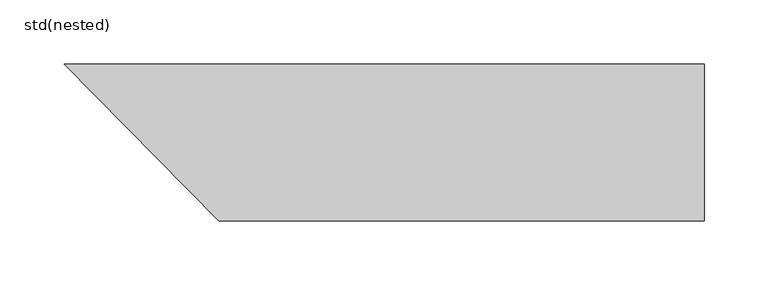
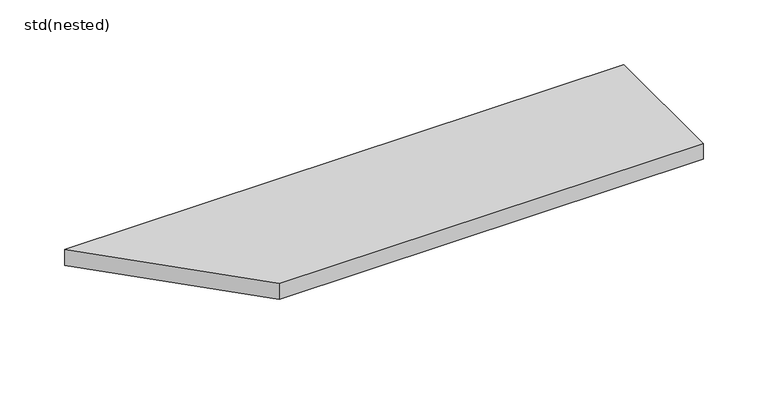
"""IFC4 building model written with IfcOpenShell, lengths in millimetres: sanitary terminal geometry, ZZZ_do not use_PF_ST_SlabDrain_H100K_gratings_USA_ACO : std(nested)."""

from ifc_helpers import new_model, si_unit, frame, origin, place, context, project, spatial, polyline, outline, extrude, source, transform, mapped, element, save


def std_nested_009b5048(model_context):
    return source(origin(), model_context, "Body", "SweptSolid", [
        extrude(outline(polyline([(250.0, 61.5), (250.0, -61.5), (-129.1282366, -61.5), (-250.0, 61.5), (250.0, 61.5)])), frame((0.0, 0.0, -98.0), z_axis=(0.0, 0.0, 1.0), x_axis=(1.0, 0.0, 0.0)), (0.0, 0.0, 1.0), 15.0),
    ])


if __name__ == "__main__":
    model = new_model("IFC4")
    model_context = context("Model", 3, world=origin())
    ifc_project = project(units=[si_unit("LENGTHUNIT", "METRE", prefix="MILLI")], contexts=[model_context])
    site = spatial("IfcSite", under=ifc_project)
    building = spatial("IfcBuilding", under=site)
    placement = place(None, origin())
    std_nested_shape = std_nested_009b5048(model_context)
    element("IfcSanitaryTerminal", 1, ObjectType="ZZZ_do not use_PF_ST_SlabDrain_H100K_gratings_USA_ACO : std(nested)", at=placement, inside=building, context=model_context, shape_type="MappedRepresentation", body=[
        mapped(std_nested_shape, transform((0.0, 0.0, 0.0), x_axis=(1.0, 0.0, 0.0), y_axis=(0.0, 1.0, 0.0), z_axis=(0.0, 0.0, 1.0))),
    ])
    save(model, "model.ifc")
